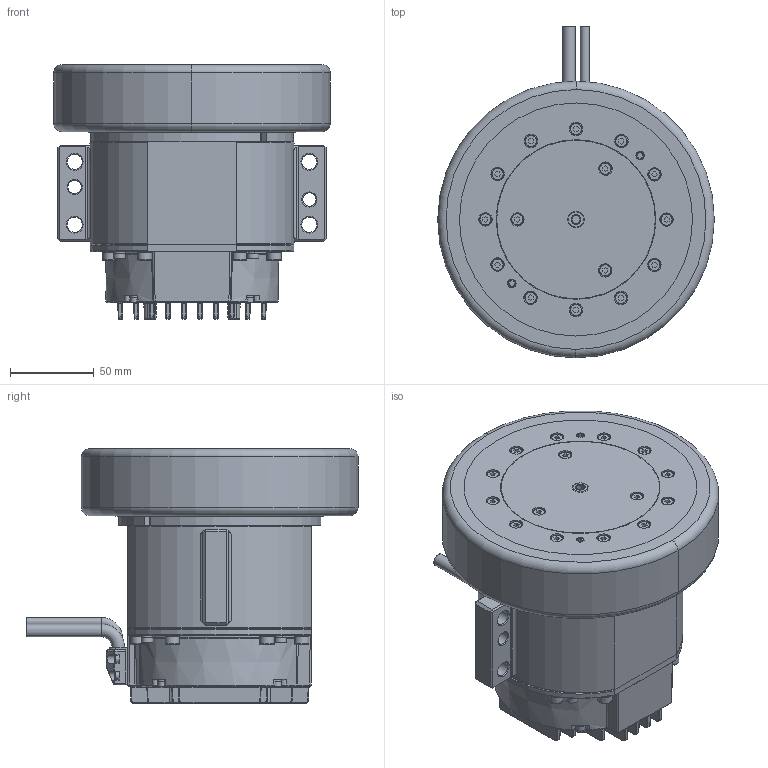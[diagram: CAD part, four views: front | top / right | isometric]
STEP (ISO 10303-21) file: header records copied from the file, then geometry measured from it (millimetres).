
FILE_DESCRIPTION (( 'STEP AP203' ), '1' );
FILE_NAME ('307091319SS (iWMC10409-02222-A165-MBDS）-V1.0.STEP', '2024-09-06T00:44:55', ( '' ), ( '' ), 'SwSTEP 2.0', 'SolidWorks 2023', '' );
FILE_SCHEMA (( 'CONFIG_CONTROL_DESIGN' ));
Products named in the file (1): 307091319SS (iWMC10409-02222-A165-MBDS）-V1.0
Bounding box: 165 x 198 x 152 mm (x, y, z)
Volume: 1061158 mm3; surface area: 366966 mm2
Topology: 74 solids, 74 shells, 2827 faces, 6763 edges, 4241 vertices
Faces by surface type: plane 1279, cylinder 806, cone 287, torus 228, bspline 211, sphere 16
Full cylindrical faces by diameter (mm): 2 x2, 2.5 x16, 2.7 x8, 3 x10, 3.19 x3, 3.3 x6, 3.5 x6, 4 x7, 4.5 x12, 5 x10, 5.411 x3, 5.5 x32, 7 x4, 7.6 x2, 8 x2, 8.5 x8, 9 x4, 24 x1, 26 x1, 37 x1, 42 x1, 47 x1, 52 x1, 102.8 x1, 103 x1, 104.2 x1, 105 x3
Entity records: 87327 total; most frequent: CARTESIAN_POINT 24018, DIRECTION 12917, ORIENTED_EDGE 12744, EDGE_CURVE 6372, AXIS2_PLACEMENT_3D 4772, VERTEX_POINT 4148, EDGE_LOOP 3506, VECTOR 3373
